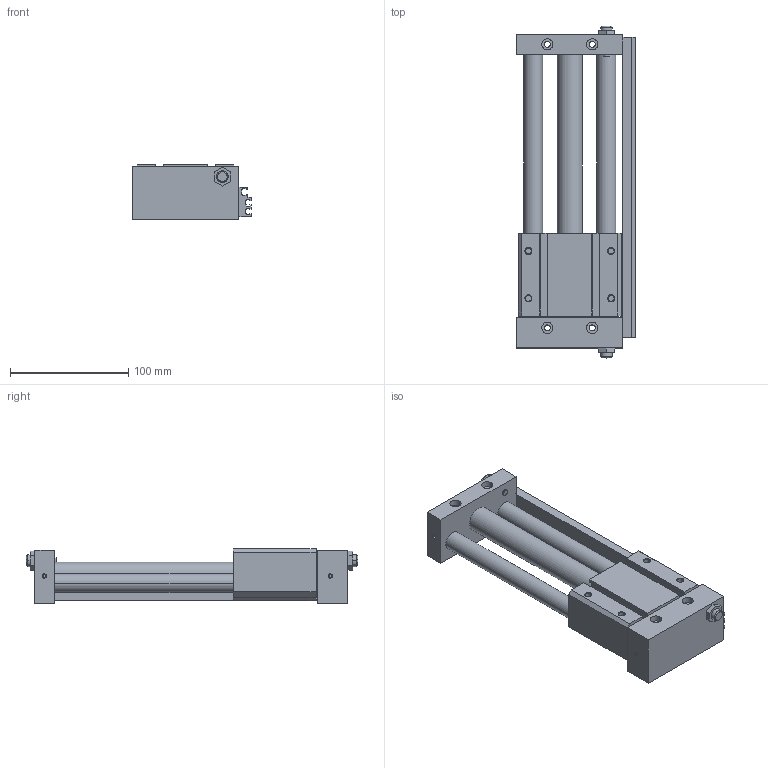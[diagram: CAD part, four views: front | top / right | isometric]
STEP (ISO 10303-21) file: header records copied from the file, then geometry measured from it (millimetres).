
FILE_DESCRIPTION((''),'2;1');
FILE_NAME('C:\Documents and Settings\Administrator\桌面\GYS\GYS20\GYSR20X150.stp','2012-03-06T20:22:34',('Administrator'),(''),'Autodesk Inventor 8','Autodesk Inventor 8','');
FILE_SCHEMA(('AUTOMOTIVE_DESIGN { 1 0 10303 214 1 1 1 1 }'));
Length unit declared in the file: millimetre
Products named in the file (3): GYSR20X150; GYS20X150; GYS20160X150
Assembly tree (2 placements, depth 2):
  GYSR20X150
    GYS20X150
    GYS20160X150
Bounding box: 100.5 x 281 x 46 mm (x, y, z)
Volume: 572642.6 mm3; surface area: 112413.2 mm2
Topology: 2 solids, 2 shells, 243 faces, 626 edges, 408 vertices
Faces by surface type: plane 133, cylinder 76, cone 28, bspline 6
Entity records: 7564 total; most frequent: CARTESIAN_POINT 1356, DIRECTION 1306, ORIENTED_EDGE 1252, EDGE_CURVE 626, AXIS2_PLACEMENT_3D 438, VECTOR 430, LINE 430, VERTEX_POINT 408
